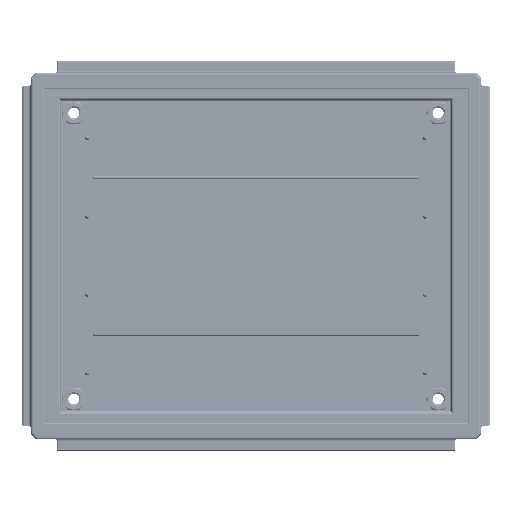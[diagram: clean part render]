
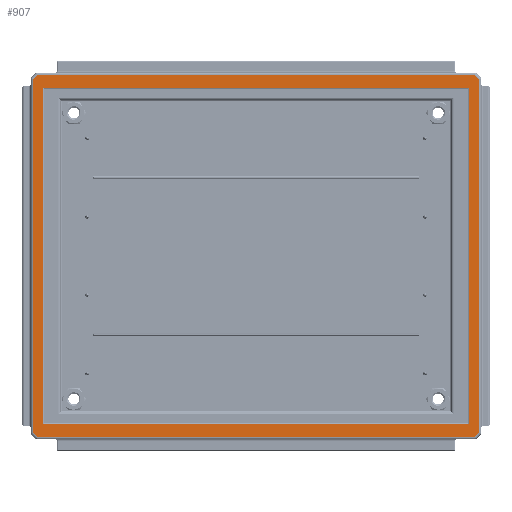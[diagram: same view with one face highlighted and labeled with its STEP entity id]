
A CAD part, front view. The second image highlights one B-rep face of the part: STEP entity #907.
In plain terms, the highlighted planar face has unit normal (0, -1, 0).
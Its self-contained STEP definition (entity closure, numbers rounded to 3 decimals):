
#907=ADVANCED_FACE('',(#27234,#27236),#27238,.T.);
#27234=FACE_BOUND('',#27235,.T.);
#27235=EDGE_LOOP('',(#88621,#88622,#88623,#88624,#88625,#88626,#88627,#88628));
#27236=FACE_BOUND('',#27237,.T.);
#27237=EDGE_LOOP('',(#88629,#88630,#88631,#88632));
#27238=PLANE('',#27239);
#27239=AXIS2_PLACEMENT_3D('',#27240,#27241,#27242);
#27240=CARTESIAN_POINT('',(262.2,0.,-564.9));
#27241=DIRECTION('',(0.,-1.,0.));
#27242=DIRECTION('',(0.,0.,1.));
#88621=ORIENTED_EDGE('',*,*,#124367,.F.);
#88622=ORIENTED_EDGE('',*,*,#124368,.F.);
#88623=ORIENTED_EDGE('',*,*,#124369,.T.);
#88624=ORIENTED_EDGE('',*,*,#124370,.T.);
#88625=ORIENTED_EDGE('',*,*,#124371,.F.);
#88626=ORIENTED_EDGE('',*,*,#124372,.T.);
#88627=ORIENTED_EDGE('',*,*,#124373,.T.);
#88628=ORIENTED_EDGE('',*,*,#124374,.F.);
#88629=ORIENTED_EDGE('',*,*,#124375,.T.);
#88630=ORIENTED_EDGE('',*,*,#124376,.T.);
#88631=ORIENTED_EDGE('',*,*,#124377,.F.);
#88632=ORIENTED_EDGE('',*,*,#124378,.T.);
#124367=EDGE_CURVE('',#142950,#142951,#142952,.T.);
#124368=EDGE_CURVE('',#142953,#142950,#142954,.T.);
#124369=EDGE_CURVE('',#142953,#142955,#142956,.T.);
#124370=EDGE_CURVE('',#142955,#142957,#142958,.T.);
#124371=EDGE_CURVE('',#142959,#142957,#142960,.T.);
#124372=EDGE_CURVE('',#142959,#142961,#142962,.T.);
#124373=EDGE_CURVE('',#142961,#142963,#142964,.T.);
#124374=EDGE_CURVE('',#142951,#142963,#142965,.T.);
#124375=EDGE_CURVE('',#142966,#142967,#142968,.T.);
#124376=EDGE_CURVE('',#142967,#142969,#142970,.T.);
#124377=EDGE_CURVE('',#142971,#142969,#142972,.T.);
#124378=EDGE_CURVE('',#142971,#142966,#142973,.T.);
#142950=VERTEX_POINT('',#175164);
#142951=VERTEX_POINT('',#175165);
#142952=LINE('',#175166,#175167);
#142953=VERTEX_POINT('',#175169);
#142954=LINE('',#175170,#175171);
#142955=VERTEX_POINT('',#175173);
#142956=LINE('',#175174,#175175);
#142957=VERTEX_POINT('',#175177);
#142958=LINE('',#175178,#175179);
#142959=VERTEX_POINT('',#175181);
#142960=LINE('',#175182,#175183);
#142961=VERTEX_POINT('',#175185);
#142962=LINE('',#175186,#175187);
#142963=VERTEX_POINT('',#175189);
#142964=LINE('',#175190,#175191);
#142965=LINE('',#175193,#175194);
#142966=VERTEX_POINT('',#175196);
#142967=VERTEX_POINT('',#175197);
#142968=LINE('',#175198,#175199);
#142969=VERTEX_POINT('',#175201);
#142970=LINE('',#175202,#175203);
#142971=VERTEX_POINT('',#175205);
#142972=LINE('',#175206,#175207);
#142973=LINE('',#175209,#175210);
#175164=CARTESIAN_POINT('',(166.716,0.,-3.1));
#175165=CARTESIAN_POINT('',(171.9,0.,-8.284));
#175166=CARTESIAN_POINT('',(166.716,0.,-3.1));
#175167=VECTOR('',#175168,1.);
#175168=DIRECTION('',(0.707,0.,-0.707));
#175169=CARTESIAN_POINT('',(-391.716,0.,-3.1));
#175170=CARTESIAN_POINT('',(-391.716,0.,-3.1));
#175171=VECTOR('',#175172,1.);
#175172=DIRECTION('',(1.,0.,0.));
#175173=CARTESIAN_POINT('',(-396.9,0.,-8.284));
#175174=CARTESIAN_POINT('',(-391.716,0.,-3.1));
#175175=VECTOR('',#175176,1.);
#175176=DIRECTION('',(-0.707,0.,-0.707));
#175177=CARTESIAN_POINT('',(-396.9,0.,-459.716));
#175178=CARTESIAN_POINT('',(-396.9,0.,-8.284));
#175179=VECTOR('',#175180,1.);
#175180=DIRECTION('',(0.,0.,-1.));
#175181=CARTESIAN_POINT('',(-391.716,0.,-464.9));
#175182=CARTESIAN_POINT('',(-391.716,0.,-464.9));
#175183=VECTOR('',#175184,1.);
#175184=DIRECTION('',(-0.707,0.,0.707));
#175185=CARTESIAN_POINT('',(166.716,0.,-464.9));
#175186=CARTESIAN_POINT('',(-391.716,0.,-464.9));
#175187=VECTOR('',#175188,1.);
#175188=DIRECTION('',(1.,0.,0.));
#175189=CARTESIAN_POINT('',(171.9,0.,-459.716));
#175190=CARTESIAN_POINT('',(166.716,0.,-464.9));
#175191=VECTOR('',#175192,1.);
#175192=DIRECTION('',(0.707,0.,0.707));
#175193=CARTESIAN_POINT('',(171.9,0.,-8.284));
#175194=VECTOR('',#175195,1.);
#175195=DIRECTION('',(0.,0.,-1.));
#175196=CARTESIAN_POINT('',(-383.591,0.,-19.899));
#175197=CARTESIAN_POINT('',(158.591,0.,-19.899));
#175198=CARTESIAN_POINT('',(-383.591,0.,-19.899));
#175199=VECTOR('',#175200,1.);
#175200=DIRECTION('',(1.,0.,0.));
#175201=CARTESIAN_POINT('',(158.591,0.,-448.101));
#175202=CARTESIAN_POINT('',(158.591,0.,-19.899));
#175203=VECTOR('',#175204,1.);
#175204=DIRECTION('',(0.,0.,-1.));
#175205=CARTESIAN_POINT('',(-383.591,0.,-448.101));
#175206=CARTESIAN_POINT('',(-383.591,0.,-448.101));
#175207=VECTOR('',#175208,1.);
#175208=DIRECTION('',(1.,0.,0.));
#175209=CARTESIAN_POINT('',(-383.591,0.,-448.101));
#175210=VECTOR('',#175211,1.);
#175211=DIRECTION('',(0.,0.,1.));
